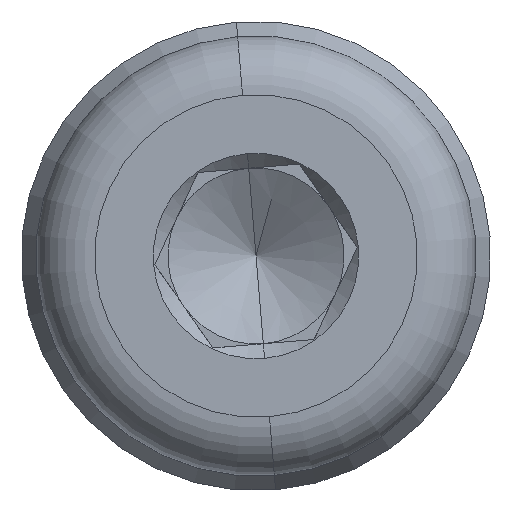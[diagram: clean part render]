
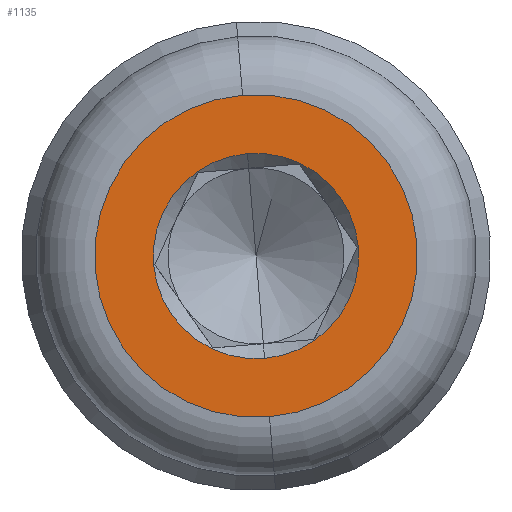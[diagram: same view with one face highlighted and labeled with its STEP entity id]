
A CAD part, front view. The second image highlights one B-rep face of the part: STEP entity #1135.
In plain terms, the highlighted planar face has unit normal (0, -1, 0).
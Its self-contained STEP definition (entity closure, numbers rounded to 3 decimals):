
#310=CARTESIAN_POINT('',(-26.,-22.,26.));
#311=DIRECTION('',(0.,-1.,0.));
#312=DIRECTION('',(0.083,0.,-0.997));
#313=AXIS2_PLACEMENT_3D('',#310,#311,#312);
#315=CARTESIAN_POINT('',(-26.,-22.,26.));
#316=DIRECTION('',(0.,-1.,0.));
#317=DIRECTION('',(-0.083,0.,0.997));
#318=AXIS2_PLACEMENT_3D('',#315,#316,#317);
#320=CARTESIAN_POINT('',(-26.,-22.,26.));
#321=DIRECTION('',(0.,1.,0.));
#322=DIRECTION('',(0.083,0.,-0.997));
#323=AXIS2_PLACEMENT_3D('',#320,#321,#322);
#325=CARTESIAN_POINT('',(-26.,-22.,26.));
#326=DIRECTION('',(0.,1.,0.));
#327=DIRECTION('',(-0.083,0.,0.997));
#328=AXIS2_PLACEMENT_3D('',#325,#326,#327);
#546=CARTESIAN_POINT('',(-26.291,-22.,29.488));
#547=CARTESIAN_POINT('',(-25.709,-22.,22.512));
#548=VERTEX_POINT('',#546);
#549=VERTEX_POINT('',#547);
#564=CARTESIAN_POINT('',(-25.542,-22.,20.519));
#566=VERTEX_POINT('',#564);
#584=CARTESIAN_POINT('',(-26.458,-22.,31.481));
#585=VERTEX_POINT('',#584);
#1120=CARTESIAN_POINT('',(-31.481,-22.,25.542));
#1121=DIRECTION('',(0.,1.,0.));
#1122=DIRECTION('',(-0.083,0.,0.997));
#1123=AXIS2_PLACEMENT_3D('',#1120,#1121,#1122);
#1124=PLANE('',#1123);
#1125=ORIENTED_EDGE('',*,*,#1100,.F.);
#1126=ORIENTED_EDGE('',*,*,#1113,.F.);
#1127=EDGE_LOOP('',(#1125,#1126));
#1128=FACE_OUTER_BOUND('',#1127,.F.);
#1130=ORIENTED_EDGE('',*,*,#1129,.F.);
#1132=ORIENTED_EDGE('',*,*,#1131,.F.);
#1133=EDGE_LOOP('',(#1130,#1132));
#1134=FACE_BOUND('',#1133,.F.);
#1135=ADVANCED_FACE('',(#1128,#1134),#1124,.F.);
#314=CIRCLE('',#313,5.5);
#319=CIRCLE('',#318,5.5);
#324=CIRCLE('',#323,3.5);
#329=CIRCLE('',#328,3.5);
#1100=EDGE_CURVE('',#566,#585,#314,.T.);
#1113=EDGE_CURVE('',#585,#566,#319,.T.);
#1129=EDGE_CURVE('',#549,#548,#324,.T.);
#1131=EDGE_CURVE('',#548,#549,#329,.T.);
